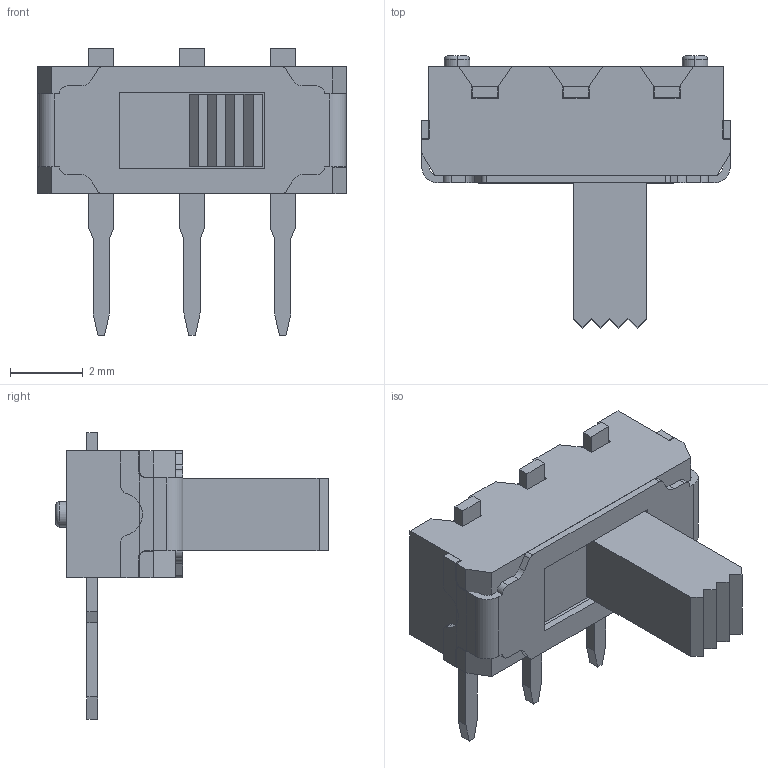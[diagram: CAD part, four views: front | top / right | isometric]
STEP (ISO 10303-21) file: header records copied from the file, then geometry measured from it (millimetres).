
FILE_DESCRIPTION (( 'STEP AP214' ), '1' );
FILE_NAME ('SW-TH_MK-12D13G4-B.STEP', '2025-10-20T04:34:25', ( '' ), ( '' ), 'SwSTEP 2.0', 'SolidWorks 2020', '' );
FILE_SCHEMA (( 'AUTOMOTIVE_DESIGN' ));
Length unit declared in the file: millimetre
Products named in the file (1): SW-TH_MK-12D13G4-B
Bounding box: 8.5 x 7.5 x 7.9 mm (x, y, z)
Volume: 108.9 mm3; surface area: 274.5 mm2
Topology: 6 solids, 6 shells, 398 faces, 1086 edges, 722 vertices
Faces by surface type: plane 260, bspline 98, cylinder 36, torus 4
Entity records: 17457 total; most frequent: CARTESIAN_POINT 3513, ORIENTED_EDGE 2172, DIRECTION 1570, EDGE_CURVE 1086, LINE 804, VECTOR 804, VERTEX_POINT 722, EDGE_LOOP 422
